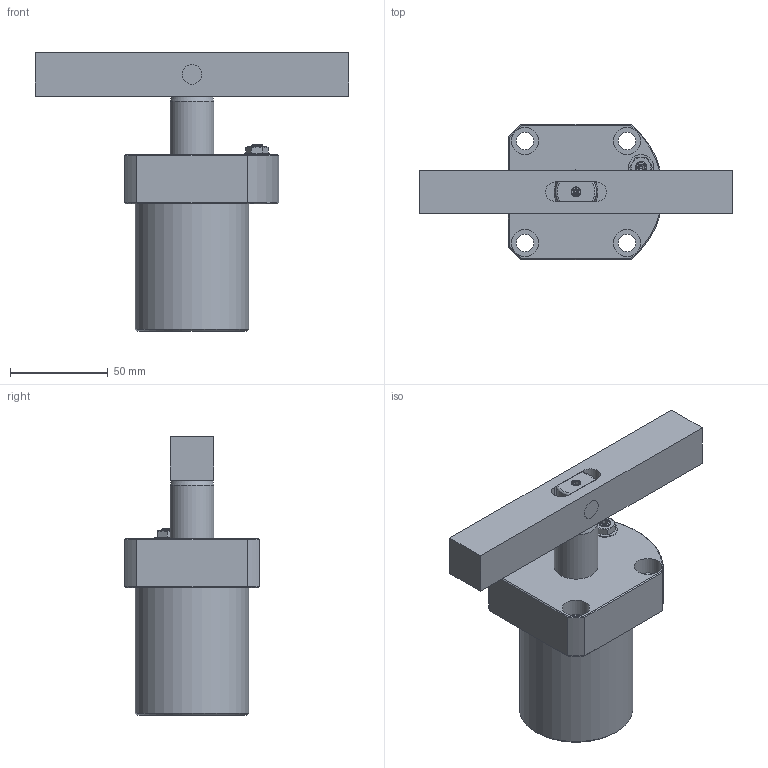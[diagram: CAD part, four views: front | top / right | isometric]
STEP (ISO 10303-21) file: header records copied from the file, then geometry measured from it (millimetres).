
FILE_DESCRIPTION(/* description */ ('Unknown'),/* implementation_level */ '2;1');
FILE_NAME(/* name */ 'HSC-FCM40D-B',/* time_stamp */ '2019-05-23T08:31:18+08:00',/* author */ ('Unknown'),/* organization */ ('Unknown'),/* preprocessor_version */ 'ST-DEVELOPER v16.7',/* originating_system */ 'DEX',/* authorisation */ $);
FILE_SCHEMA (('AUTOMOTIVE_DESIGN {1 0 10303 214 3 1 1}'));
Length unit declared in the file: millimetre
Products named in the file (5): HSC-FCM40D-B; HSC-FCM40D-CYLINDER; HSC-4002-D-AXLE CENTRE; HSC-4002-D-FIXED PIN; HSC-40D-B
Assembly tree (4 placements, depth 2):
  HSC-FCM40D-B
    HSC-FCM40D-CYLINDER
    HSC-4002-D-AXLE CENTRE
    HSC-4002-D-FIXED PIN
    HSC-40D-B
Bounding box: 160 x 69 x 142.2 mm (x, y, z)
Volume: 344358.8 mm3; surface area: 68113.3 mm2
Topology: 4 solids, 4 shells, 146 faces, 311 edges, 195 vertices
Faces by surface type: plane 61, cylinder 32, cone 25, bspline 24, torus 4
Full cylindrical faces by diameter (mm): 3 x2, 4.1 x2, 6 x1, 9 x4, 10 x4, 12 x2, 13 x1, 14 x4, 22.4 x2, 40 x2, 58 x1
Entity records: 4007 total; most frequent: CARTESIAN_POINT 1117, DIRECTION 530, ORIENTED_EDGE 510, EDGE_CURVE 255, AXIS2_PLACEMENT_3D 230, EDGE_LOOP 224, FACE_BOUND 224, VERTEX_POINT 179
